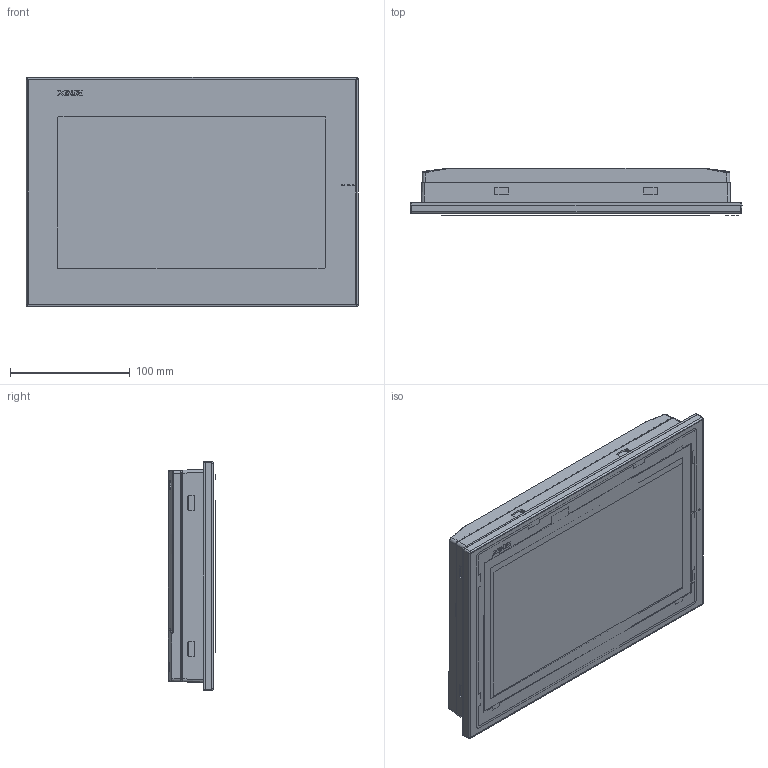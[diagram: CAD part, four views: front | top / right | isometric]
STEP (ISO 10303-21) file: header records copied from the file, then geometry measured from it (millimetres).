
FILE_DESCRIPTION(/* description */ (''),/* implementation_level */ '2;1');
FILE_NAME(/* name */ 'TS3-1000（20230426)',/* time_stamp */ '2023-04-26T13:46:49+08:00',/* author */ (''),/* organization */ (''),/* preprocessor_version */ 'ST-DEVELOPER v16.5',/* originating_system */ '',/* authorisation */ '');
FILE_SCHEMA (('CONFIG_CONTROL_DESIGN'));
Products named in the file (1): Document
Bounding box: 277 x 39.91 x 191.68 mm (x, y, z)
Volume: 45951.1 mm3; surface area: 476264.3 mm2
Topology: 26 solids, 42 shells, 5897 faces, 17031 edges, 11345 vertices
Faces by surface type: plane 4415, bspline 873, cylinder 609
Entity records: 196220 total; most frequent: CARTESIAN_POINT 84510, ORIENTED_EDGE 33999, EDGE_CURVE 17025, B_SPLINE_CURVE_WITH_KNOTS 15699, VERTEX_POINT 11345, EDGE_LOOP 6197, ADVANCED_FACE 5897, FACE_OUTER_BOUND 5897
